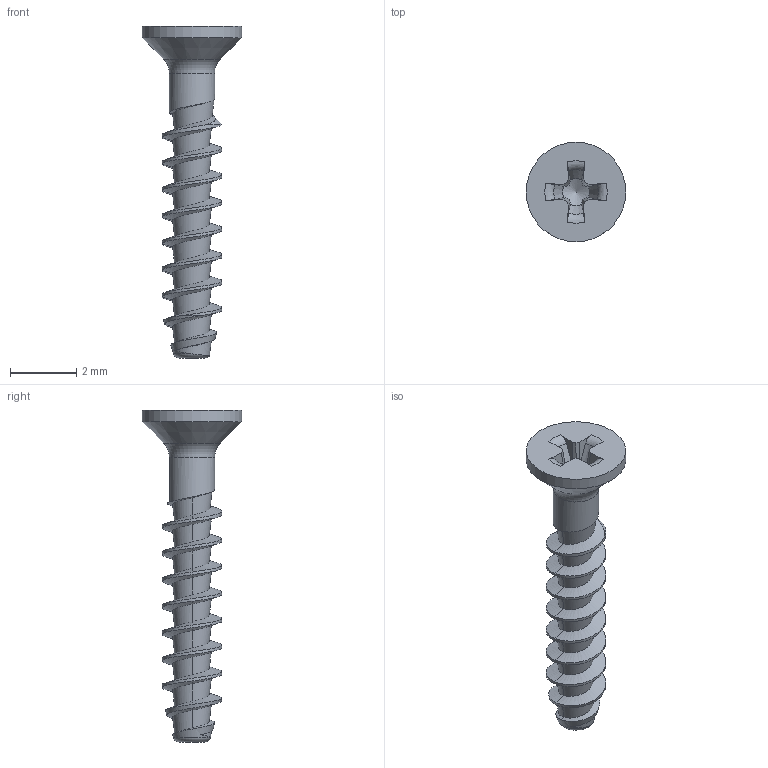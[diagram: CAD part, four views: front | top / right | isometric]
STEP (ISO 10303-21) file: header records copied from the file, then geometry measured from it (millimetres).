
FILE_DESCRIPTION(/* description */ (''),/* implementation_level */ '2;1');
FILE_NAME(/* name */ 'KN1033-STS-18x10-H0.step',/* time_stamp */ '2017-10-16T14:06:32+02:00',/* author */ (''),/* organization */ (''),/* preprocessor_version */ 'ST-DEVELOPER v16',/* originating_system */ 'SIEMENS PLM Software NX 10.0',/* authorisation */ '');
FILE_SCHEMA (('AUTOMOTIVE_DESIGN { 1 0 10303 214 3 1 1 1 }'));
Length unit declared in the file: millimetre
Products named in the file (1): KN1033-STS-18x10-H0
Bounding box: 3 x 3 x 10 mm (x, y, z)
Volume: 16.5 mm3; surface area: 76.5 mm2
Topology: 1 solids, 1 shells, 66 faces, 171 edges, 107 vertices
Faces by surface type: bspline 30, plane 18, cone 8, torus 6, cylinder 4
Full cylindrical faces by diameter (mm): 1.36 x1, 3 x1
Entity records: 3859 total; most frequent: CARTESIAN_POINT 2542, ORIENTED_EDGE 316, DIRECTION 169, EDGE_CURVE 158, VERTEX_POINT 102, B_SPLINE_CURVE_WITH_KNOTS 82, EDGE_LOOP 71, ADVANCED_FACE 65
